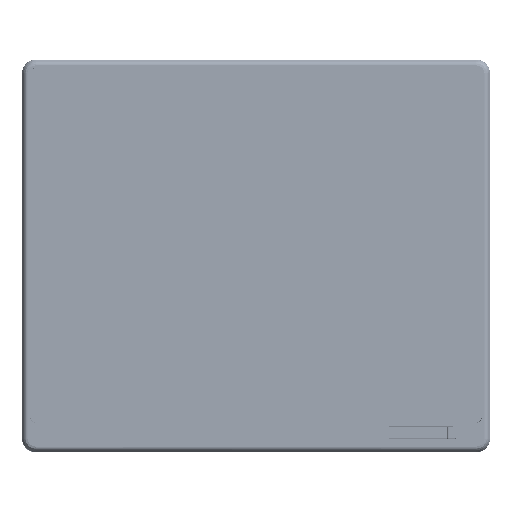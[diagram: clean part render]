
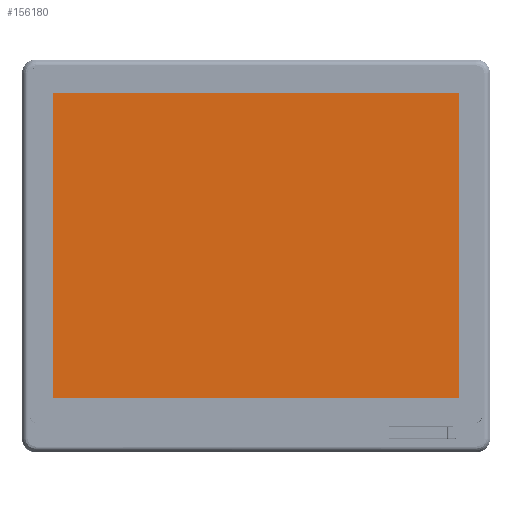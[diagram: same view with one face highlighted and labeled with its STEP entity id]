
A CAD part, top view. The second image highlights one B-rep face of the part: STEP entity #156180.
In plain terms, the highlighted planar face has unit normal (0, 0, 1).
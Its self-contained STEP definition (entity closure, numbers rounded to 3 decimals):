
#34566 = LINE ( 'NONE', #936997, #800006 ) ;
#47889 = CARTESIAN_POINT ( 'NONE',  ( -65.222, 3.727, 366.537 ) ) ;
#81406 = CARTESIAN_POINT ( 'NONE',  ( 88.478, 119.427, 366.537 ) ) ;
#103991 = CARTESIAN_POINT ( 'NONE',  ( -65.222, 3.777, 366.537 ) ) ;
#109411 = ORIENTED_EDGE ( 'NONE', *, *, #278300, .T. ) ;
#118796 = PLANE ( 'NONE',  #1161175 ) ;
#138322 = CARTESIAN_POINT ( 'NONE',  ( -218.922, -111.873, 366.537 ) ) ;
#156180 = ADVANCED_FACE ( 'NONE', ( #635965, #860758 ), #118796, .T. ) ;
#172571 = ORIENTED_EDGE ( 'NONE', *, *, #1157006, .T. ) ;
#186277 = EDGE_LOOP ( 'NONE', ( #222486, #696601 ) ) ;
#200249 = DIRECTION ( 'NONE',  ( 0., -1., 0. ) ) ;
#205412 = VERTEX_POINT ( 'NONE', #81406 ) ;
#222486 = ORIENTED_EDGE ( 'NONE', *, *, #495864, .F. ) ;
#278300 = EDGE_CURVE ( 'NONE', #1029186, #205412, #409196, .T. ) ;
#281374 = VERTEX_POINT ( 'NONE', #563396 ) ;
#287236 = LINE ( 'NONE', #138322, #512780 ) ;
#368844 = CARTESIAN_POINT ( 'NONE',  ( -65.222, 3.777, 366.537 ) ) ;
#403094 = EDGE_LOOP ( 'NONE', ( #519942, #1142007, #109411, #172571 ) ) ;
#409196 = LINE ( 'NONE', #411857, #634340 ) ;
#411857 = CARTESIAN_POINT ( 'NONE',  ( 88.478, 119.427, 366.537 ) ) ;
#459150 = DIRECTION ( 'NONE',  ( 0., -1., 0. ) ) ;
#465226 = DIRECTION ( 'NONE',  ( 0., -1., 0. ) ) ;
#478546 = LINE ( 'NONE', #1155559, #1213787 ) ;
#495864 = EDGE_CURVE ( 'NONE', #1220834, #1170983, #1183349, .T. ) ;
#504796 = CARTESIAN_POINT ( 'NONE',  ( -218.922, -111.873, 366.537 ) ) ;
#506351 = CARTESIAN_POINT ( 'NONE',  ( -65.222, 3.827, 366.537 ) ) ;
#512780 = VECTOR ( 'NONE', #1191029, 1000. ) ;
#519942 = ORIENTED_EDGE ( 'NONE', *, *, #1028036, .T. ) ;
#563396 = CARTESIAN_POINT ( 'NONE',  ( -218.922, -111.873, 366.537 ) ) ;
#577033 = DIRECTION ( 'NONE',  ( -1., 0., 0. ) ) ;
#599010 = AXIS2_PLACEMENT_3D ( 'NONE', #368844, #1039636, #465226 ) ;
#601127 = DIRECTION ( 'NONE',  ( 1., 0., 0. ) ) ;
#634340 = VECTOR ( 'NONE', #893958, 1000. ) ;
#635269 = VERTEX_POINT ( 'NONE', #883313 ) ;
#635965 = FACE_OUTER_BOUND ( 'NONE', #403094, .T. ) ;
#696601 = ORIENTED_EDGE ( 'NONE', *, *, #1140917, .F. ) ;
#774961 = DIRECTION ( 'NONE',  ( 0., 0., 1. ) ) ;
#782793 = CARTESIAN_POINT ( 'NONE',  ( 88.478, -111.873, 366.537 ) ) ;
#800006 = VECTOR ( 'NONE', #459150, 1000. ) ;
#860758 = FACE_BOUND ( 'NONE', #186277, .T. ) ;
#873517 = CIRCLE ( 'NONE', #599010, 0.05 ) ;
#883313 = CARTESIAN_POINT ( 'NONE',  ( -218.922, 119.427, 366.537 ) ) ;
#893958 = DIRECTION ( 'NONE',  ( 0., 1., 0. ) ) ;
#936997 = CARTESIAN_POINT ( 'NONE',  ( -218.922, 119.427, 366.537 ) ) ;
#1001406 = AXIS2_PLACEMENT_3D ( 'NONE', #103991, #774961, #200249 ) ;
#1028036 = EDGE_CURVE ( 'NONE', #635269, #281374, #34566, .T. ) ;
#1029186 = VERTEX_POINT ( 'NONE', #782793 ) ;
#1039636 = DIRECTION ( 'NONE',  ( 0., 0., 1. ) ) ;
#1055486 = EDGE_CURVE ( 'NONE', #281374, #1029186, #287236, .T. ) ;
#1140917 = EDGE_CURVE ( 'NONE', #1170983, #1220834, #873517, .T. ) ;
#1142007 = ORIENTED_EDGE ( 'NONE', *, *, #1055486, .T. ) ;
#1155559 = CARTESIAN_POINT ( 'NONE',  ( -218.922, 119.427, 366.537 ) ) ;
#1157006 = EDGE_CURVE ( 'NONE', #205412, #635269, #478546, .T. ) ;
#1161175 = AXIS2_PLACEMENT_3D ( 'NONE', #504796, #1175581, #601127 ) ;
#1170983 = VERTEX_POINT ( 'NONE', #506351 ) ;
#1175581 = DIRECTION ( 'NONE',  ( 0., 0., 1. ) ) ;
#1183349 = CIRCLE ( 'NONE', #1001406, 0.05 ) ;
#1191029 = DIRECTION ( 'NONE',  ( 1., 0., 0. ) ) ;
#1213787 = VECTOR ( 'NONE', #577033, 1000. ) ;
#1220834 = VERTEX_POINT ( 'NONE', #47889 ) ;
